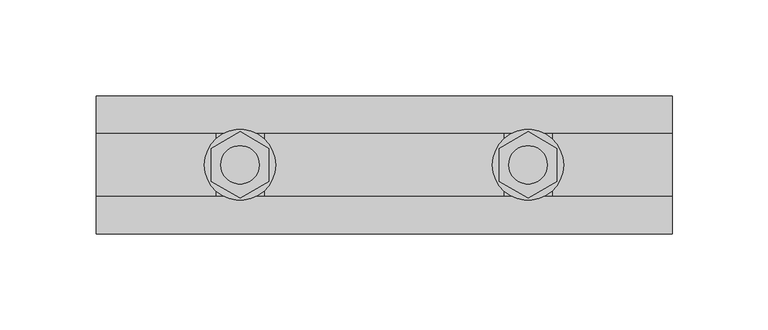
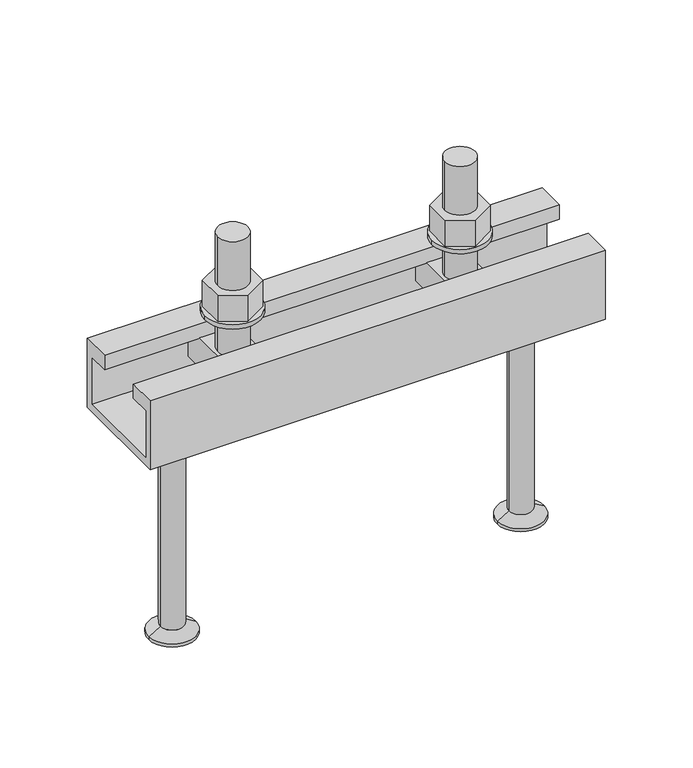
"""IFC4 building model written with IfcOpenShell, lengths in millimetres: fastener geometry, JTA-W JORDAHL® AnchorChannels : JTA-W L=300 mm."""

from ifc_helpers import new_model, si_unit, point, frame, frame_2d, origin, place, context, project, spatial, polyline, circle_curve, trimmed, segment, composite_curve, outline, extrude, source, transform, mapped, element, save
from ifc_brep_helpers import plane_surface, cylinder_surface, revolved_surface, advanced_brep


def fastener_af97386c(model_context):
    return source(origin(), model_context, "Body", "SolidModel", [
        extrude(outline(polyline([(225.0, 17.3205081), (240.0, 8.660254), (240.0, -8.660254), (225.0, -17.3205081), (210.0, -8.660254), (210.0, 8.660254), (225.0, 17.3205081)]), holes=[composite_curve([segment(trimmed(circle_curve(frame_2d((225.0, 0.0)), 10.0), [point((215.0, 0.0))], [point((235.0, 0.0))], True, "CARTESIAN"), True, "CONTINUOUS"), segment(trimmed(circle_curve(frame_2d((225.0, 0.0)), 10.0), [point((235.0, 0.0))], [point((215.0, 0.0))], True, "CARTESIAN"), True, "CONTINUOUS")], self_intersect=False)]), frame((0.0, 0.0, 18.0), z_axis=(0.0, 0.0, 1.0), x_axis=(1.0, 0.0, 0.0)), (0.0, 0.0, 1.0), 18.0),
        extrude(outline(composite_curve([segment(trimmed(circle_curve(frame_2d((225.0, 0.0)), 18.5), [point((206.5, 0.0))], [point((243.5, 0.0))], False, "CARTESIAN"), True, "CONTINUOUS"), segment(trimmed(circle_curve(frame_2d((225.0, 0.0)), 18.5), [point((243.5, 0.0))], [point((206.5, 0.0))], False, "CARTESIAN"), True, "CONTINUOUS")], self_intersect=False), holes=[composite_curve([segment(trimmed(circle_curve(frame_2d((225.0, 0.0)), 10.5), [point((214.5, 0.0))], [point((235.5, 0.0))], True, "CARTESIAN"), True, "CONTINUOUS"), segment(trimmed(circle_curve(frame_2d((225.0, 0.0)), 10.5), [point((235.5, 0.0))], [point((214.5, 0.0))], True, "CARTESIAN"), True, "CONTINUOUS")], self_intersect=False)]), frame((0.0, 0.0, 15.0), z_axis=(0.0, 0.0, 1.0), x_axis=(1.0, 0.0, 0.0)), (0.0, 0.0, 1.0), 3.0),
        extrude(outline(polyline([(75.0, 17.3205081), (90.0, 8.660254), (90.0, -8.660254), (75.0, -17.3205081), (60.0, -8.660254), (60.0, 8.660254), (75.0, 17.3205081)]), holes=[composite_curve([segment(trimmed(circle_curve(frame_2d((75.0, 0.0)), 10.0), [point((65.0, 0.0))], [point((85.0, 0.0))], True, "CARTESIAN"), True, "CONTINUOUS"), segment(trimmed(circle_curve(frame_2d((75.0, 0.0)), 10.0), [point((85.0, 0.0))], [point((65.0, 0.0))], True, "CARTESIAN"), True, "CONTINUOUS")], self_intersect=False)]), frame((0.0, 0.0, 18.0), z_axis=(0.0, 0.0, 1.0), x_axis=(1.0, 0.0, 0.0)), (0.0, 0.0, 1.0), 18.0),
        extrude(outline(composite_curve([segment(trimmed(circle_curve(frame_2d((75.0, 0.0)), 18.5), [point((56.5, 0.0))], [point((93.5, 0.0))], False, "CARTESIAN"), True, "CONTINUOUS"), segment(trimmed(circle_curve(frame_2d((75.0, 0.0)), 18.5), [point((93.5, 0.0))], [point((56.5, 0.0))], False, "CARTESIAN"), True, "CONTINUOUS")], self_intersect=False), holes=[composite_curve([segment(trimmed(circle_curve(frame_2d((75.0, 0.0)), 10.5), [point((64.5, 0.0))], [point((85.5, 0.0))], True, "CARTESIAN"), True, "CONTINUOUS"), segment(trimmed(circle_curve(frame_2d((75.0, 0.0)), 10.5), [point((85.5, 0.0))], [point((64.5, 0.0))], True, "CARTESIAN"), True, "CONTINUOUS")], self_intersect=False)]), frame((0.0, 0.0, 15.0), z_axis=(0.0, 0.0, 1.0), x_axis=(1.0, 0.0, 0.0)), (0.0, 0.0, 1.0), 3.0),
        advanced_brep(
        [(237.5, 29.0, -10.0), (237.5, -29.0, -10.0), (237.5, -29.0, -30.0), (237.5, 29.0, -30.0), (212.5, 29.0, -10.0), (212.5, 29.0, -30.0), (212.5, -29.0, -30.0), (212.5, -29.0, -10.0), (235.0, 0.0, -10.0), (215.0, 0.0, -10.0), (215.0, 0.0, 70.0), (235.0, 0.0, 70.0)],
        [
            (0, 1),
            (1, 2),
            (2, 3),
            (3, 0),
            (4, 5),
            (5, 6),
            (6, 7),
            (7, 4),
            (0, 4),
            (7, 1),
            (8, 9, circle_curve(frame((225.0, 0.0, -10.0), z_axis=(0.0, 0.0, -1.0), x_axis=(1.0, 0.0, 0.0)), 10.0)),
            (9, 8, circle_curve(frame((225.0, 0.0, -10.0), z_axis=(0.0, 0.0, -1.0), x_axis=(1.0, 0.0, 0.0)), 10.0)),
            (6, 2),
            (5, 3),
            (10, 11, circle_curve(frame((225.0, 0.0, 70.0), z_axis=(0.0, 0.0, 1.0), x_axis=(1.0, 0.0, 0.0)), 10.0)),
            (11, 10, circle_curve(frame((225.0, 0.0, 70.0), z_axis=(0.0, 0.0, 1.0), x_axis=(1.0, 0.0, 0.0)), 10.0)),
            (10, 9),
            (8, 11),
        ],
        [
            plane_surface(frame((237.5, -29.0, -10.0), z_axis=(1.0, 0.0, 0.0), x_axis=(0.0, -1.0, 0.0))),
            plane_surface(frame((212.5, -29.0, -10.0), z_axis=(-1.0, 0.0, 0.0), x_axis=(0.0, 1.0, 0.0))),
            plane_surface(frame((237.5, 29.0, -10.0), z_axis=(0.0, 0.0, 1.0), x_axis=(-1.0, 0.0, 0.0))),
            plane_surface(frame((237.5, -29.0, -10.0), z_axis=(0.0, -1.0, 0.0), x_axis=(-1.0, 0.0, 0.0))),
            plane_surface(frame((237.5, -29.0, -30.0), z_axis=(0.0, 0.0, -1.0), x_axis=(-1.0, 0.0, 0.0))),
            plane_surface(frame((237.5, 29.0, -30.0), z_axis=(0.0, 1.0, 0.0), x_axis=(-1.0, 0.0, 0.0))),
            plane_surface(frame((235.0, 0.0, 70.0), z_axis=(0.0, 0.0, 1.0), x_axis=(0.0, 1.0, 0.0))),
            cylinder_surface(frame((225.0, 0.0, -10.0), z_axis=(0.0, 0.0, 1.0), x_axis=(1.0, 0.0, 0.0)), 10.0),
        ],
        [
            (0, [[1, 2, 3, 4]]),
            (1, [[5, 6, 7, 8]]),
            (2, [[-1, 9, -8, 10], [11, 12]]),
            (3, [[-2, -10, -7, 13]]),
            (4, [[-3, -13, -6, 14]]),
            (5, [[-4, -14, -5, -9]]),
            (6, [[15, 16]]),
            (7, [[-15, 17, -11, 18]]),
            (7, [[-16, -18, -12, -17]]),
        ],
    ),
        advanced_brep(
        [(87.5, 29.0, -10.0), (87.5, -29.0, -10.0), (87.5, -29.0, -30.0), (87.5, 29.0, -30.0), (62.5, 29.0, -10.0), (62.5, 29.0, -30.0), (62.5, -29.0, -30.0), (62.5, -29.0, -10.0), (85.0, 0.0, -10.0), (65.0, 0.0, -10.0), (65.0, 0.0, 70.0), (85.0, 0.0, 70.0)],
        [
            (0, 1),
            (1, 2),
            (2, 3),
            (3, 0),
            (4, 5),
            (5, 6),
            (6, 7),
            (7, 4),
            (0, 4),
            (7, 1),
            (8, 9, circle_curve(frame((75.0, 0.0, -10.0), z_axis=(0.0, 0.0, -1.0), x_axis=(1.0, 0.0, 0.0)), 10.0)),
            (9, 8, circle_curve(frame((75.0, 0.0, -10.0), z_axis=(0.0, 0.0, -1.0), x_axis=(1.0, 0.0, 0.0)), 10.0)),
            (6, 2),
            (5, 3),
            (10, 11, circle_curve(frame((75.0, 0.0, 70.0), z_axis=(0.0, 0.0, 1.0), x_axis=(1.0, 0.0, 0.0)), 10.0)),
            (11, 10, circle_curve(frame((75.0, 0.0, 70.0), z_axis=(0.0, 0.0, 1.0), x_axis=(1.0, 0.0, 0.0)), 10.0)),
            (10, 9),
            (8, 11),
        ],
        [
            plane_surface(frame((87.5, -29.0, -10.0), z_axis=(1.0, 0.0, 0.0), x_axis=(0.0, -1.0, 0.0))),
            plane_surface(frame((62.5, -29.0, -10.0), z_axis=(-1.0, 0.0, 0.0), x_axis=(0.0, 1.0, 0.0))),
            plane_surface(frame((87.5, 29.0, -10.0), z_axis=(0.0, 0.0, 1.0), x_axis=(-1.0, 0.0, 0.0))),
            plane_surface(frame((87.5, -29.0, -10.0), z_axis=(0.0, -1.0, 0.0), x_axis=(-1.0, 0.0, 0.0))),
            plane_surface(frame((87.5, -29.0, -30.0), z_axis=(0.0, 0.0, -1.0), x_axis=(-1.0, 0.0, 0.0))),
            plane_surface(frame((87.5, 29.0, -30.0), z_axis=(0.0, 1.0, 0.0), x_axis=(-1.0, 0.0, 0.0))),
            plane_surface(frame((85.0, 0.0, 70.0), z_axis=(0.0, 0.0, 1.0), x_axis=(0.0, 1.0, 0.0))),
            cylinder_surface(frame((75.0, 0.0, -10.0), z_axis=(0.0, 0.0, 1.0), x_axis=(1.0, 0.0, 0.0)), 10.0),
        ],
        [
            (0, [[1, 2, 3, 4]]),
            (1, [[5, 6, 7, 8]]),
            (2, [[-1, 9, -8, 10], [11, 12]]),
            (3, [[-2, -10, -7, 13]]),
            (4, [[-3, -13, -6, 14]]),
            (5, [[-4, -14, -5, -9]]),
            (6, [[15, 16]]),
            (7, [[-15, 17, -11, 18]]),
            (7, [[-16, -18, -12, -17]]),
        ],
    ),
        advanced_brep(
        [(265.0, 0.0, -48.0), (288.0, 0.0, -48.0), (242.0, 0.0, -48.0), (249.5, 0.0, -195.0), (280.5, 0.0, -195.0), (265.0, 0.0, -195.0), (249.5, 0.0, -193.0), (280.5, 0.0, -193.0), (257.2, 0.0, -188.5544029), (272.8, 0.0, -188.5544029), (257.2, 0.0, -52.0), (272.8, 0.0, -52.0)],
        [
            (0, 1),
            (1, 2, circle_curve(frame((265.0, 0.0, -48.0), z_axis=(0.0, 0.0, 1.0), x_axis=(1.0, 0.0, 0.0)), 23.0)),
            (2, 0),
            (2, 1, circle_curve(frame((265.0, 0.0, -48.0), z_axis=(0.0, 0.0, 1.0), x_axis=(1.0, 0.0, 0.0)), 23.0)),
            (3, 4, circle_curve(frame((265.0, 0.0, -195.0), z_axis=(0.0, 0.0, -1.0), x_axis=(1.0, 0.0, 0.0)), 15.5)),
            (4, 5),
            (5, 3),
            (4, 3, circle_curve(frame((265.0, 0.0, -195.0), z_axis=(0.0, 0.0, -1.0), x_axis=(1.0, 0.0, 0.0)), 15.5)),
            (6, 7, circle_curve(frame((265.0, 0.0, -193.0), z_axis=(0.0, 0.0, -1.0), x_axis=(1.0, 0.0, 0.0)), 15.5)),
            (7, 4),
            (3, 6),
            (7, 6, circle_curve(frame((265.0, 0.0, -193.0), z_axis=(0.0, 0.0, -1.0), x_axis=(1.0, 0.0, 0.0)), 15.5)),
            (8, 9, circle_curve(frame((265.0, 0.0, -188.5544029), z_axis=(0.0, 0.0, -1.0), x_axis=(1.0, 0.0, 0.0)), 7.8)),
            (9, 7),
            (6, 8),
            (9, 8, circle_curve(frame((265.0, 0.0, -188.5544029), z_axis=(0.0, 0.0, -1.0), x_axis=(1.0, 0.0, 0.0)), 7.8)),
            (10, 11, circle_curve(frame((265.0, 0.0, -52.0), z_axis=(0.0, 0.0, -1.0), x_axis=(1.0, 0.0, 0.0)), 7.8)),
            (11, 9),
            (8, 10),
            (11, 10, circle_curve(frame((265.0, 0.0, -52.0), z_axis=(0.0, 0.0, -1.0), x_axis=(1.0, 0.0, 0.0)), 7.8)),
            (1, 11),
            (10, 2),
        ],
        [
            plane_surface(frame((265.0, 0.0, -48.0), z_axis=(0.0, 0.0, 1.0), x_axis=(1.0, 0.0, 0.0))),
            plane_surface(frame((265.0, 0.0, -195.0), z_axis=(0.0, 0.0, -1.0), x_axis=(1.0, 0.0, 0.0))),
            cylinder_surface(frame((265.0, 0.0, 2361.3150031), z_axis=(0.0, 0.0, 1.0), x_axis=(1.0, 0.0, 0.0)), 15.5),
            revolved_surface(polyline([(280.5, 0.0, -193.0), (272.8, 0.0, -188.5544029)]), (265.0, 0.0, 2361.3150031), (0.0, 0.0, 1.0)),
            cylinder_surface(frame((265.0, 0.0, 2361.3150031), z_axis=(0.0, 0.0, 1.0), x_axis=(1.0, 0.0, 0.0)), 7.8),
            revolved_surface(polyline([(272.8, 0.0, -52.0), (288.0, 0.0, -48.0)]), (265.0, 0.0, 2361.3150031), (0.0, 0.0, 1.0)),
        ],
        [
            (0, [[1, 2, 3]]),
            (0, [[-3, 4, -1]]),
            (1, [[5, 6, 7]]),
            (1, [[8, -7, -6]]),
            (2, [[9, 10, -5, 11]]),
            (2, [[12, -11, -8, -10]]),
            (3, [[13, 14, -9, 15]]),
            (3, [[16, -15, -12, -14]]),
            (4, [[17, 18, -13, 19]]),
            (4, [[20, -19, -16, -18]]),
            (5, [[-2, 21, -17, 22]]),
            (5, [[-4, -22, -20, -21]]),
        ],
    ),
        advanced_brep(
        [(35.0, 0.0, -48.0), (58.0, 0.0, -48.0), (12.0, 0.0, -48.0), (19.5, 0.0, -195.0), (50.5, 0.0, -195.0), (35.0, 0.0, -195.0), (19.5, 0.0, -193.0), (50.5, 0.0, -193.0), (27.2, 0.0, -188.5544029), (42.8, 0.0, -188.5544029), (27.2, 0.0, -52.0), (42.8, 0.0, -52.0)],
        [
            (0, 1),
            (1, 2, circle_curve(frame((35.0, 0.0, -48.0), z_axis=(0.0, 0.0, 1.0), x_axis=(1.0, 0.0, 0.0)), 23.0)),
            (2, 0),
            (2, 1, circle_curve(frame((35.0, 0.0, -48.0), z_axis=(0.0, 0.0, 1.0), x_axis=(1.0, 0.0, 0.0)), 23.0)),
            (3, 4, circle_curve(frame((35.0, 0.0, -195.0), z_axis=(0.0, 0.0, -1.0), x_axis=(1.0, 0.0, 0.0)), 15.5)),
            (4, 5),
            (5, 3),
            (4, 3, circle_curve(frame((35.0, 0.0, -195.0), z_axis=(0.0, 0.0, -1.0), x_axis=(1.0, 0.0, 0.0)), 15.5)),
            (6, 7, circle_curve(frame((35.0, 0.0, -193.0), z_axis=(0.0, 0.0, -1.0), x_axis=(1.0, 0.0, 0.0)), 15.5)),
            (7, 4),
            (3, 6),
            (7, 6, circle_curve(frame((35.0, 0.0, -193.0), z_axis=(0.0, 0.0, -1.0), x_axis=(1.0, 0.0, 0.0)), 15.5)),
            (8, 9, circle_curve(frame((35.0, 0.0, -188.5544029), z_axis=(0.0, 0.0, -1.0), x_axis=(1.0, 0.0, 0.0)), 7.8)),
            (9, 7),
            (6, 8),
            (9, 8, circle_curve(frame((35.0, 0.0, -188.5544029), z_axis=(0.0, 0.0, -1.0), x_axis=(1.0, 0.0, 0.0)), 7.8)),
            (10, 11, circle_curve(frame((35.0, 0.0, -52.0), z_axis=(0.0, 0.0, -1.0), x_axis=(1.0, 0.0, 0.0)), 7.8)),
            (11, 9),
            (8, 10),
            (11, 10, circle_curve(frame((35.0, 0.0, -52.0), z_axis=(0.0, 0.0, -1.0), x_axis=(1.0, 0.0, 0.0)), 7.8)),
            (1, 11),
            (10, 2),
        ],
        [
            plane_surface(frame((35.0, 0.0, -48.0), z_axis=(0.0, 0.0, 1.0), x_axis=(1.0, 0.0, 0.0))),
            plane_surface(frame((35.0, 0.0, -195.0), z_axis=(0.0, 0.0, -1.0), x_axis=(1.0, 0.0, 0.0))),
            cylinder_surface(frame((35.0, 0.0, 2361.3150031), z_axis=(0.0, 0.0, 1.0), x_axis=(1.0, 0.0, 0.0)), 15.5),
            revolved_surface(polyline([(50.5, 0.0, -193.0), (42.8, 0.0, -188.5544029)]), (35.0, 0.0, 2361.3150031), (0.0, 0.0, 1.0)),
            cylinder_surface(frame((35.0, 0.0, 2361.3150031), z_axis=(0.0, 0.0, 1.0), x_axis=(1.0, 0.0, 0.0)), 7.8),
            revolved_surface(polyline([(42.8, 0.0, -52.0), (58.0, 0.0, -48.0)]), (35.0, 0.0, 2361.3150031), (0.0, 0.0, 1.0)),
        ],
        [
            (0, [[1, 2, 3]]),
            (0, [[-3, 4, -1]]),
            (1, [[5, 6, 7]]),
            (1, [[8, -7, -6]]),
            (2, [[9, 10, -5, 11]]),
            (2, [[12, -11, -8, -10]]),
            (3, [[13, 14, -9, 15]]),
            (3, [[16, -15, -12, -14]]),
            (4, [[17, 18, -13, 19]]),
            (4, [[20, -19, -16, -18]]),
            (5, [[-2, 21, -17, 22]]),
            (5, [[-4, -22, -20, -21]]),
        ],
    ),
        extrude(outline(polyline([(36.0, 0.0), (36.0, -48.0), (-36.0, -48.0), (-36.0, 0.0), (-16.5, 0.0), (-16.5, -10.0), (-31.0, -10.0), (-31.0, -43.0), (31.0, -43.0), (31.0, -10.0), (16.5, -10.0), (16.5, 0.0), (36.0, 0.0)])), frame((0.0, 0.0, 0.0), z_axis=(1.0, 0.0, 0.0), x_axis=(0.0, 1.0, 0.0)), (0.0, 0.0, 1.0), 300.0),
    ])


if __name__ == "__main__":
    model = new_model("IFC4")
    model_context = context("Model", 3, world=origin())
    ifc_project = project(units=[si_unit("LENGTHUNIT", "METRE", prefix="MILLI")], contexts=[model_context])
    site = spatial("IfcSite", under=ifc_project)
    building = spatial("IfcBuilding", under=site)
    placement = place(None, origin())
    fastener_shape = fastener_af97386c(model_context)
    element("IfcFastener", 1, ObjectType="JTA-W JORDAHL® AnchorChannels : JTA-W L=300 mm", at=placement, inside=building, context=model_context, shape_type="MappedRepresentation", body=[
        mapped(fastener_shape, transform((0.0, 0.0, 0.0), x_axis=(1.0, 0.0, 0.0), y_axis=(0.0, 1.0, 0.0), z_axis=(0.0, 0.0, 1.0))),
    ])
    save(model, "model.ifc")
